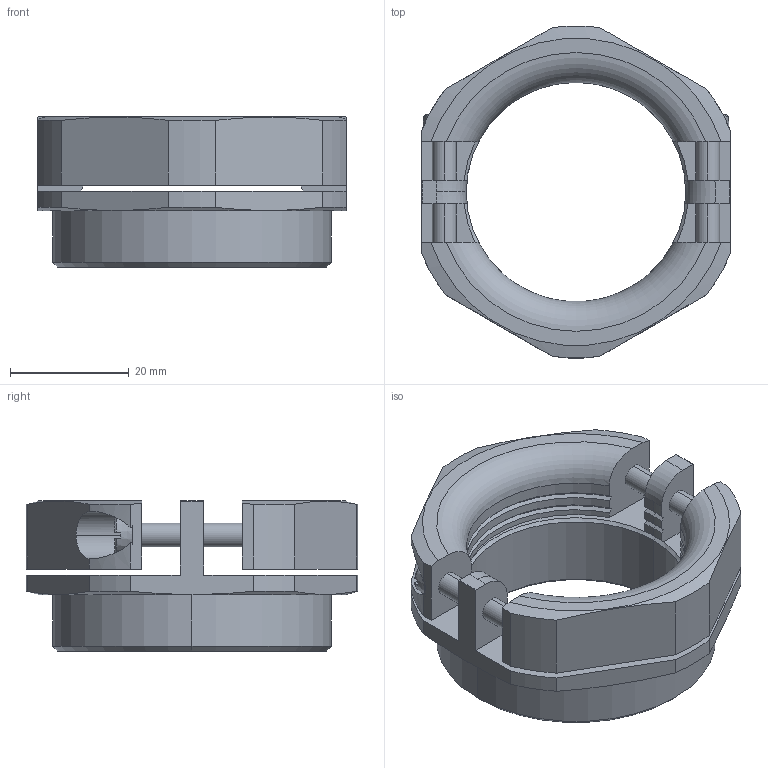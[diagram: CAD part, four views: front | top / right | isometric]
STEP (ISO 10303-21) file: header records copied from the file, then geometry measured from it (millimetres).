
FILE_DESCRIPTION (( 'STEP AP203' ), '1' );
FILE_NAME ('19.236.STEP', '2006-10-30T09:18:45', ( ' ' ), ( '' ), 'SwSTEP 2.0', 'SolidWorks 2005278', '' );
FILE_SCHEMA (( 'CONFIG_CONTROL_DESIGN' ));
Length unit declared in the file: millimetre
Products named in the file (1): 19.236
Bounding box: 52 x 55.94 x 25.3 mm (x, y, z)
Volume: 21085.1 mm3; surface area: 11562.9 mm2
Topology: 1 solids, 1 shells, 176 faces, 480 edges, 315 vertices
Faces by surface type: plane 81, cylinder 44, cone 40, torus 11
Entity records: 6028 total; most frequent: CARTESIAN_POINT 1534, ORIENTED_EDGE 960, DIRECTION 884, EDGE_CURVE 480, AXIS2_PLACEMENT_3D 321, VERTEX_POINT 315, VECTOR 242, LINE 242
